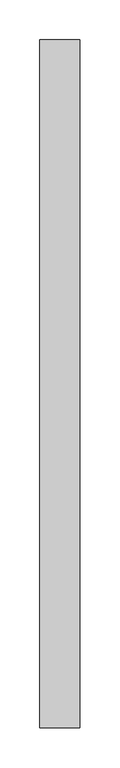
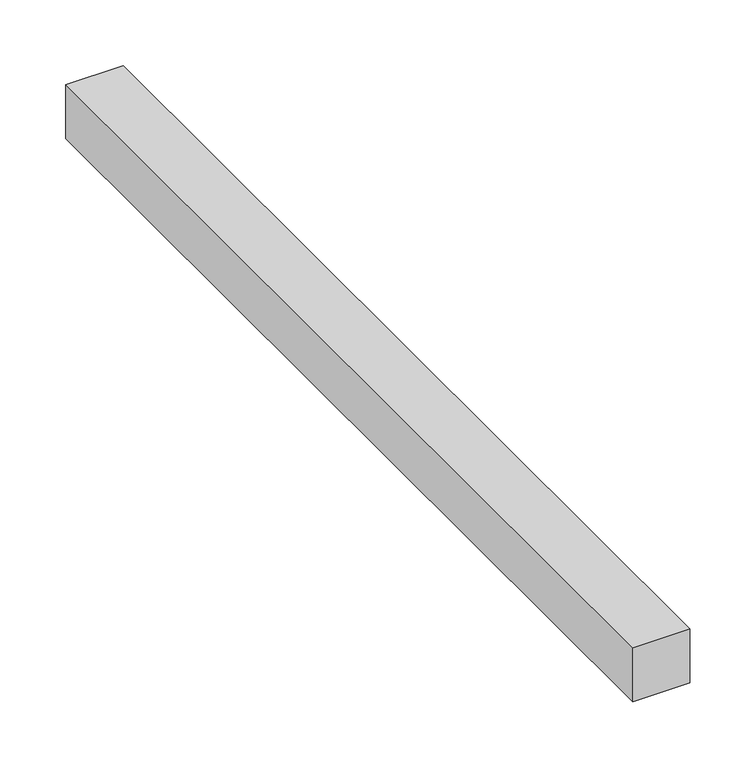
"""IFC4 building model written with IfcOpenShell, lengths in millimetres: proxy geometry, Modelos genéricos 134 : Modelos genéricos 266."""

from ifc_helpers import new_model, si_unit, frame, origin, place, context, project, spatial, polyline, outline, extrude, source, transform, mapped, element, save


def generic_models_bcde12e6(model_context):
    return source(origin(), model_context, "Body", "SweptSolid", [
        extrude(outline(polyline([(-5924.2825148, -7811.1177116), (-5924.2825148, -6951.1177116), (-5874.2825148, -6951.1177116), (-5874.2825148, -7811.1177116), (-5924.2825148, -7811.1177116)])), frame((0.0, 0.0, 100.0), z_axis=(0.0, 0.0, 1.0), x_axis=(1.0, 0.0, 0.0)), (0.0, 0.0, 1.0), 50.0),
    ])


if __name__ == "__main__":
    model = new_model("IFC4")
    model_context = context("Model", 3, world=origin())
    ifc_project = project(units=[si_unit("LENGTHUNIT", "METRE", prefix="MILLI")], contexts=[model_context])
    site = spatial("IfcSite", under=ifc_project)
    building = spatial("IfcBuilding", under=site)
    placement = place(None, origin())
    generic_models_shape = generic_models_bcde12e6(model_context)
    element("IfcBuildingElementProxy", 1, Name="Modelos genéricos 134 : Modelos genéricos 266", ObjectType="Modelos genéricos 134 : Modelos genéricos 266", at=placement, inside=building, context=model_context, shape_type="MappedRepresentation", body=[
        mapped(generic_models_shape, transform((0.0, 0.0, 0.0), x_axis=(1.0, 0.0, 0.0), y_axis=(0.0, 1.0, 0.0), z_axis=(0.0, 0.0, 1.0))),
    ])
    save(model, "model.ifc")
